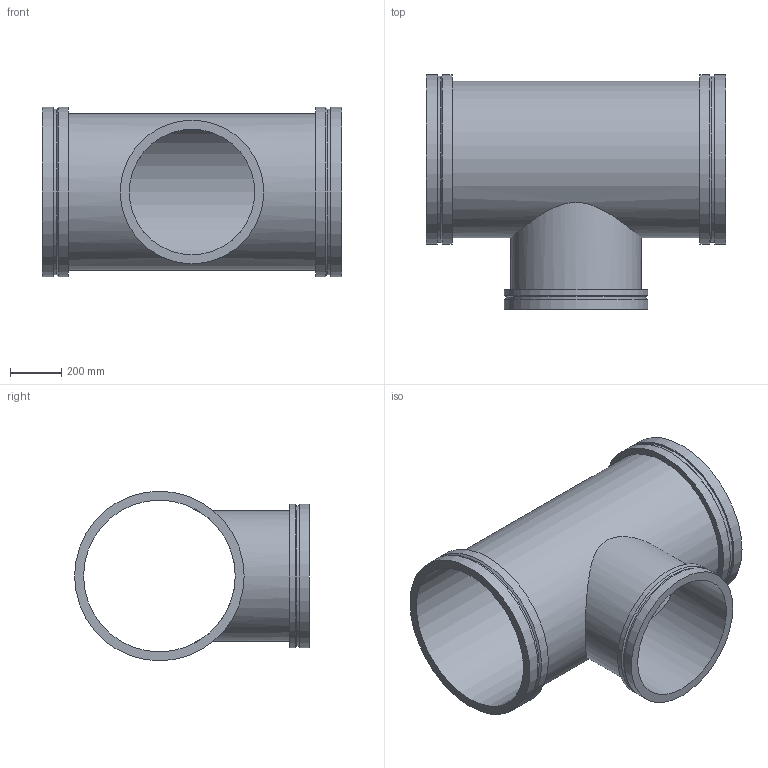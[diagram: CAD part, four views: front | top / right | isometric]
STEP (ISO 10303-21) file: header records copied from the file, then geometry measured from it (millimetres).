
FILE_DESCRIPTION(/* description */ ('VIC REDUCING TEE No W025 VR','CAx-IF Rec.Pracs.---Representation and Presentation of Product Manufacturing Information (PMI)---4.0---2014-10-13'),/* implementation_level */ '2;1');
FILE_NAME(/* name */ 'C:\Users\kkamble\AppData\Roaming\Autodesk\ApplicationPlugins\Back Up\Victaulic_Vic-Ring_Tee Reducing_No W25 VR (AGR)\Victaulic_Vic-Ring_Tee Reducing_No W25 VR (AGR)_24.0x20.0 (600x500).stp',/* time_stamp */ '2020-09-10T11:53:16+05:00',/* author */ ('mchristi'),/* organization */ ('Victaulic'),/* preprocessor_version */ 'ST-DEVELOPER v17.2',/* originating_system */ 'Autodesk Inventor 2019',/* authorisation */ '');
FILE_SCHEMA (('AP242_MANAGED_MODEL_BASED_3D_ENGINEERING_MIM_LF { 1 0 10303 442 1 1 4 }'));
Length unit declared in the file: inch
Products named in the file (1): W25 VR-24.0x20.0
Bounding box: 1168.4 x 914.4 x 660.4 mm (x, y, z)
Volume: 36954211.4 mm3; surface area: 5490899.3 mm2
Topology: 1 solids, 1 shells, 25 faces, 68 edges, 52 vertices
Faces by surface type: cylinder 13, plane 9, cone 3
Full cylindrical faces by diameter (mm): 488.95 x1, 508 x1, 546.1 x1, 558.8 x2, 590.55 x1, 609.6 x1, 645.922 x2, 660.4 x4
Entity records: 1243 total; most frequent: CARTESIAN_POINT 399, DIRECTION 190, ORIENTED_EDGE 136, AXIS2_PLACEMENT_3D 87, EDGE_CURVE 68, VERTEX_POINT 52, CIRCLE 48, EDGE_LOOP 36
